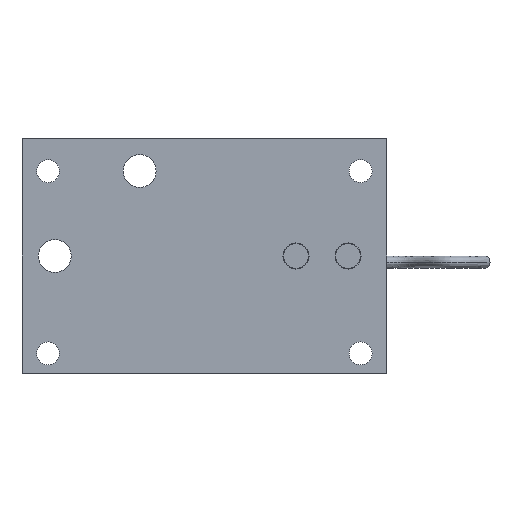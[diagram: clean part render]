
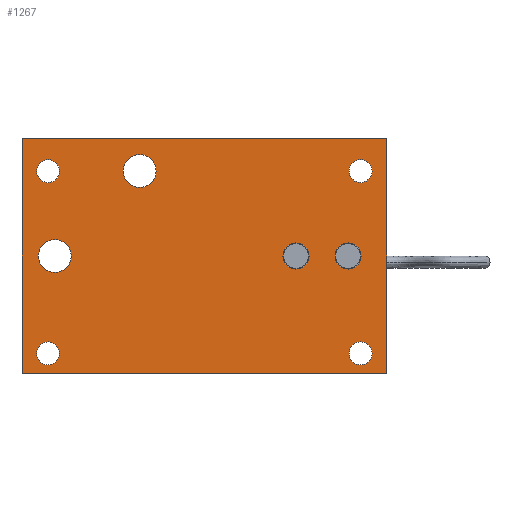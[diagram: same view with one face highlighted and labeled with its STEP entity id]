
A CAD part, front view. The second image highlights one B-rep face of the part: STEP entity #1267.
In plain terms, the highlighted planar face has unit normal (0, -1, 0).
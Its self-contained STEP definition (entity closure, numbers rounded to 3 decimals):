
#1=CARTESIAN_POINT('',(-76.2,0.,-47.5));
#2=DIRECTION('',(0.,-1.,0.));
#3=DIRECTION('',(1.,0.,0.));
#4=AXIS2_PLACEMENT_3D('',#1,#2,#3);
#6=CARTESIAN_POINT('',(-76.2,0.,-47.5));
#7=DIRECTION('',(0.,-1.,0.));
#8=DIRECTION('',(-1.,0.,0.));
#9=AXIS2_PLACEMENT_3D('',#6,#7,#8);
#11=CARTESIAN_POINT('',(-76.2,0.,41.4));
#12=DIRECTION('',(0.,-1.,0.));
#13=DIRECTION('',(1.,0.,0.));
#14=AXIS2_PLACEMENT_3D('',#11,#12,#13);
#16=CARTESIAN_POINT('',(-76.2,0.,41.4));
#17=DIRECTION('',(0.,-1.,0.));
#18=DIRECTION('',(-1.,0.,0.));
#19=AXIS2_PLACEMENT_3D('',#16,#17,#18);
#21=CARTESIAN_POINT('',(76.2,0.,41.4));
#22=DIRECTION('',(0.,-1.,0.));
#23=DIRECTION('',(1.,0.,0.));
#24=AXIS2_PLACEMENT_3D('',#21,#22,#23);
#26=CARTESIAN_POINT('',(76.2,0.,41.4));
#27=DIRECTION('',(0.,-1.,0.));
#28=DIRECTION('',(-1.,0.,0.));
#29=AXIS2_PLACEMENT_3D('',#26,#27,#28);
#31=CARTESIAN_POINT('',(76.2,0.,-47.5));
#32=DIRECTION('',(0.,-1.,0.));
#33=DIRECTION('',(1.,0.,0.));
#34=AXIS2_PLACEMENT_3D('',#31,#32,#33);
#36=CARTESIAN_POINT('',(76.2,0.,-47.5));
#37=DIRECTION('',(0.,-1.,0.));
#38=DIRECTION('',(-1.,0.,0.));
#39=AXIS2_PLACEMENT_3D('',#36,#37,#38);
#41=CARTESIAN_POINT('',(-72.9,0.,0.));
#42=DIRECTION('',(0.,-1.,0.));
#43=DIRECTION('',(1.,0.,0.));
#44=AXIS2_PLACEMENT_3D('',#41,#42,#43);
#46=CARTESIAN_POINT('',(-72.9,0.,0.));
#47=DIRECTION('',(0.,-1.,0.));
#48=DIRECTION('',(-1.,0.,0.));
#49=AXIS2_PLACEMENT_3D('',#46,#47,#48);
#51=CARTESIAN_POINT('',(-31.5,0.,41.4));
#52=DIRECTION('',(0.,-1.,0.));
#53=DIRECTION('',(1.,0.,0.));
#54=AXIS2_PLACEMENT_3D('',#51,#52,#53);
#56=CARTESIAN_POINT('',(-31.5,0.,41.4));
#57=DIRECTION('',(0.,-1.,0.));
#58=DIRECTION('',(-1.,0.,0.));
#59=AXIS2_PLACEMENT_3D('',#56,#57,#58);
#61=CARTESIAN_POINT('',(70.1,0.,0.));
#62=DIRECTION('',(0.,-1.,0.));
#63=DIRECTION('',(1.,0.,0.));
#64=AXIS2_PLACEMENT_3D('',#61,#62,#63);
#66=CARTESIAN_POINT('',(70.1,0.,0.));
#67=DIRECTION('',(0.,-1.,0.));
#68=DIRECTION('',(-1.,0.,0.));
#69=AXIS2_PLACEMENT_3D('',#66,#67,#68);
#71=CARTESIAN_POINT('',(44.7,0.,0.));
#72=DIRECTION('',(0.,-1.,0.));
#73=DIRECTION('',(1.,0.,0.));
#74=AXIS2_PLACEMENT_3D('',#71,#72,#73);
#76=CARTESIAN_POINT('',(44.7,0.,0.));
#77=DIRECTION('',(0.,-1.,0.));
#78=DIRECTION('',(-1.,0.,0.));
#79=AXIS2_PLACEMENT_3D('',#76,#77,#78);
#81=DIRECTION('',(0.,0.,1.));
#82=VECTOR('',#81,114.3);
#83=CARTESIAN_POINT('',(-88.9,0.,-57.15));
#84=LINE('',#83,#82);
#89=DIRECTION('',(-1.,0.,0.));
#90=VECTOR('',#89,177.8);
#91=CARTESIAN_POINT('',(88.9,0.,-57.15));
#92=LINE('',#91,#90);
#121=DIRECTION('',(0.,0.,-1.));
#122=VECTOR('',#121,114.3);
#123=CARTESIAN_POINT('',(88.9,0.,57.15));
#124=LINE('',#123,#122);
#862=DIRECTION('',(1.,0.,0.));
#863=VECTOR('',#862,177.8);
#864=CARTESIAN_POINT('',(-88.9,0.,57.15));
#865=LINE('',#864,#863);
#1100=CARTESIAN_POINT('',(-88.9,0.,-57.15));
#1101=CARTESIAN_POINT('',(-88.9,0.,57.15));
#1102=VERTEX_POINT('',#1100);
#1103=VERTEX_POINT('',#1101);
#1104=CARTESIAN_POINT('',(88.9,0.,-57.15));
#1105=VERTEX_POINT('',#1104);
#1106=CARTESIAN_POINT('',(88.9,0.,57.15));
#1107=VERTEX_POINT('',#1106);
#1108=CARTESIAN_POINT('',(-70.6,0.,-47.5));
#1109=CARTESIAN_POINT('',(-81.8,0.,-47.5));
#1110=VERTEX_POINT('',#1108);
#1111=VERTEX_POINT('',#1109);
#1112=CARTESIAN_POINT('',(-70.6,0.,41.4));
#1113=CARTESIAN_POINT('',(-81.8,0.,41.4));
#1114=VERTEX_POINT('',#1112);
#1115=VERTEX_POINT('',#1113);
#1116=CARTESIAN_POINT('',(81.8,0.,41.4));
#1117=CARTESIAN_POINT('',(70.6,0.,41.4));
#1118=VERTEX_POINT('',#1116);
#1119=VERTEX_POINT('',#1117);
#1120=CARTESIAN_POINT('',(81.8,0.,-47.5));
#1121=CARTESIAN_POINT('',(70.6,0.,-47.5));
#1122=VERTEX_POINT('',#1120);
#1123=VERTEX_POINT('',#1121);
#1124=CARTESIAN_POINT('',(-64.9,0.,0.));
#1125=CARTESIAN_POINT('',(-80.9,0.,0.));
#1126=VERTEX_POINT('',#1124);
#1127=VERTEX_POINT('',#1125);
#1128=CARTESIAN_POINT('',(-23.5,0.,41.4));
#1129=CARTESIAN_POINT('',(-39.5,0.,41.4));
#1130=VERTEX_POINT('',#1128);
#1131=VERTEX_POINT('',#1129);
#1132=CARTESIAN_POINT('',(76.45,0.,0.));
#1133=CARTESIAN_POINT('',(63.75,0.,0.));
#1134=VERTEX_POINT('',#1132);
#1135=VERTEX_POINT('',#1133);
#1136=CARTESIAN_POINT('',(51.05,0.,0.));
#1137=CARTESIAN_POINT('',(38.35,0.,0.));
#1138=VERTEX_POINT('',#1136);
#1139=VERTEX_POINT('',#1137);
#1204=CARTESIAN_POINT('',(0.,0.,0.));
#1205=DIRECTION('',(0.,1.,0.));
#1206=DIRECTION('',(1.,0.,0.));
#1207=AXIS2_PLACEMENT_3D('',#1204,#1205,#1206);
#1208=PLANE('',#1207);
#1210=ORIENTED_EDGE('',*,*,#1209,.T.);
#1212=ORIENTED_EDGE('',*,*,#1211,.T.);
#1214=ORIENTED_EDGE('',*,*,#1213,.T.);
#1216=ORIENTED_EDGE('',*,*,#1215,.T.);
#1217=EDGE_LOOP('',(#1210,#1212,#1214,#1216));
#1218=FACE_OUTER_BOUND('',#1217,.F.);
#1220=ORIENTED_EDGE('',*,*,#1219,.T.);
#1222=ORIENTED_EDGE('',*,*,#1221,.T.);
#1223=EDGE_LOOP('',(#1220,#1222));
#1224=FACE_BOUND('',#1223,.F.);
#1226=ORIENTED_EDGE('',*,*,#1225,.T.);
#1228=ORIENTED_EDGE('',*,*,#1227,.T.);
#1229=EDGE_LOOP('',(#1226,#1228));
#1230=FACE_BOUND('',#1229,.F.);
#1232=ORIENTED_EDGE('',*,*,#1231,.T.);
#1234=ORIENTED_EDGE('',*,*,#1233,.T.);
#1235=EDGE_LOOP('',(#1232,#1234));
#1236=FACE_BOUND('',#1235,.F.);
#1238=ORIENTED_EDGE('',*,*,#1237,.T.);
#1240=ORIENTED_EDGE('',*,*,#1239,.T.);
#1241=EDGE_LOOP('',(#1238,#1240));
#1242=FACE_BOUND('',#1241,.F.);
#1244=ORIENTED_EDGE('',*,*,#1243,.T.);
#1246=ORIENTED_EDGE('',*,*,#1245,.T.);
#1247=EDGE_LOOP('',(#1244,#1246));
#1248=FACE_BOUND('',#1247,.F.);
#1250=ORIENTED_EDGE('',*,*,#1249,.T.);
#1252=ORIENTED_EDGE('',*,*,#1251,.T.);
#1253=EDGE_LOOP('',(#1250,#1252));
#1254=FACE_BOUND('',#1253,.F.);
#1256=ORIENTED_EDGE('',*,*,#1255,.T.);
#1258=ORIENTED_EDGE('',*,*,#1257,.T.);
#1259=EDGE_LOOP('',(#1256,#1258));
#1260=FACE_BOUND('',#1259,.F.);
#1262=ORIENTED_EDGE('',*,*,#1261,.T.);
#1264=ORIENTED_EDGE('',*,*,#1263,.T.);
#1265=EDGE_LOOP('',(#1262,#1264));
#1266=FACE_BOUND('',#1265,.F.);
#1267=ADVANCED_FACE('',(#1218,#1224,#1230,#1236,#1242,#1248,#1254,#1260,#1266),
#1208,.F.);
#5=CIRCLE('',#4,5.6);
#10=CIRCLE('',#9,5.6);
#15=CIRCLE('',#14,5.6);
#20=CIRCLE('',#19,5.6);
#25=CIRCLE('',#24,5.6);
#30=CIRCLE('',#29,5.6);
#35=CIRCLE('',#34,5.6);
#40=CIRCLE('',#39,5.6);
#45=CIRCLE('',#44,8.);
#50=CIRCLE('',#49,8.);
#55=CIRCLE('',#54,8.);
#60=CIRCLE('',#59,8.);
#65=CIRCLE('',#64,6.35);
#70=CIRCLE('',#69,6.35);
#75=CIRCLE('',#74,6.35);
#80=CIRCLE('',#79,6.35);
#1209=EDGE_CURVE('',#1102,#1103,#84,.T.);
#1211=EDGE_CURVE('',#1103,#1107,#865,.T.);
#1213=EDGE_CURVE('',#1107,#1105,#124,.T.);
#1215=EDGE_CURVE('',#1105,#1102,#92,.T.);
#1219=EDGE_CURVE('',#1110,#1111,#5,.T.);
#1221=EDGE_CURVE('',#1111,#1110,#10,.T.);
#1225=EDGE_CURVE('',#1114,#1115,#15,.T.);
#1227=EDGE_CURVE('',#1115,#1114,#20,.T.);
#1231=EDGE_CURVE('',#1118,#1119,#25,.T.);
#1233=EDGE_CURVE('',#1119,#1118,#30,.T.);
#1237=EDGE_CURVE('',#1122,#1123,#35,.T.);
#1239=EDGE_CURVE('',#1123,#1122,#40,.T.);
#1243=EDGE_CURVE('',#1126,#1127,#45,.T.);
#1245=EDGE_CURVE('',#1127,#1126,#50,.T.);
#1249=EDGE_CURVE('',#1130,#1131,#55,.T.);
#1251=EDGE_CURVE('',#1131,#1130,#60,.T.);
#1255=EDGE_CURVE('',#1134,#1135,#65,.T.);
#1257=EDGE_CURVE('',#1135,#1134,#70,.T.);
#1261=EDGE_CURVE('',#1138,#1139,#75,.T.);
#1263=EDGE_CURVE('',#1139,#1138,#80,.T.);
